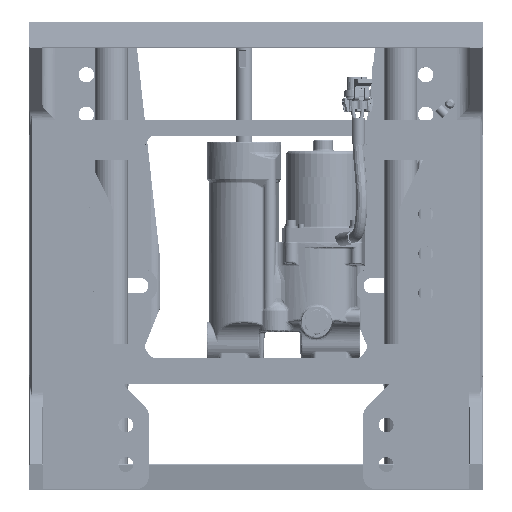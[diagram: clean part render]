
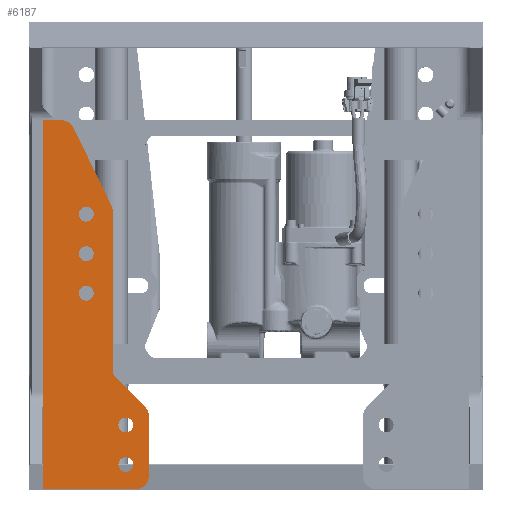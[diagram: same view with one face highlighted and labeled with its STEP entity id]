
A CAD part, top view. The second image highlights one B-rep face of the part: STEP entity #6187.
In plain terms, the highlighted planar face has unit normal (0, 0, 1) as drawn and (0, 0, -1) by its records, which use the part's own axes.
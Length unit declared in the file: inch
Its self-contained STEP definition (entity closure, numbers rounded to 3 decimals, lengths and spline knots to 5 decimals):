
#5104=DIRECTION('',(-1.,0.,0.));
#5105=VECTOR('',#5104,0.68768);
#5106=CARTESIAN_POINT('',(0.,14.,0.));
#5107=LINE('',#5106,#5105);
#5120=CARTESIAN_POINT('',(-1.625,10.44,0.));
#5121=DIRECTION('',(0.,0.,1.));
#5122=DIRECTION('',(1.,0.,0.));
#5123=AXIS2_PLACEMENT_3D('',#5120,#5121,#5122);
#5125=CARTESIAN_POINT('',(-1.625,10.44,0.));
#5126=DIRECTION('',(0.,0.,1.));
#5127=DIRECTION('',(-1.,0.,0.));
#5128=AXIS2_PLACEMENT_3D('',#5125,#5126,#5127);
#5130=CARTESIAN_POINT('',(-1.625,8.94,0.));
#5131=DIRECTION('',(0.,0.,1.));
#5132=DIRECTION('',(1.,0.,0.));
#5133=AXIS2_PLACEMENT_3D('',#5130,#5131,#5132);
#5135=CARTESIAN_POINT('',(-1.625,8.94,0.));
#5136=DIRECTION('',(0.,0.,1.));
#5137=DIRECTION('',(-1.,0.,0.));
#5138=AXIS2_PLACEMENT_3D('',#5135,#5136,#5137);
#5140=CARTESIAN_POINT('',(-3.125,0.94,0.));
#5141=DIRECTION('',(0.,0.,1.));
#5142=DIRECTION('',(1.,0.,0.));
#5143=AXIS2_PLACEMENT_3D('',#5140,#5141,#5142);
#5145=CARTESIAN_POINT('',(-3.125,0.94,0.));
#5146=DIRECTION('',(0.,0.,1.));
#5147=DIRECTION('',(-1.,0.,0.));
#5148=AXIS2_PLACEMENT_3D('',#5145,#5146,#5147);
#5150=CARTESIAN_POINT('',(-3.125,2.44,0.));
#5151=DIRECTION('',(0.,0.,1.));
#5152=DIRECTION('',(-1.,0.,0.));
#5153=AXIS2_PLACEMENT_3D('',#5150,#5151,#5152);
#5155=CARTESIAN_POINT('',(-3.125,2.44,0.));
#5156=DIRECTION('',(0.,0.,1.));
#5157=DIRECTION('',(1.,0.,0.));
#5158=AXIS2_PLACEMENT_3D('',#5155,#5156,#5157);
#5160=CARTESIAN_POINT('',(-1.625,7.44,0.));
#5161=DIRECTION('',(0.,0.,1.));
#5162=DIRECTION('',(1.,0.,0.));
#5163=AXIS2_PLACEMENT_3D('',#5160,#5161,#5162);
#5165=CARTESIAN_POINT('',(-1.625,7.44,0.));
#5166=DIRECTION('',(0.,0.,1.));
#5167=DIRECTION('',(-1.,0.,0.));
#5168=AXIS2_PLACEMENT_3D('',#5165,#5166,#5167);
#5170=CARTESIAN_POINT('',(-3.5,2.77211,0.));
#5171=DIRECTION('',(0.,0.,1.));
#5172=DIRECTION('',(-0.707,0.707,0.));
#5173=AXIS2_PLACEMENT_3D('',#5170,#5171,#5172);
#5175=CARTESIAN_POINT('',(-3.5,0.5,0.));
#5176=DIRECTION('',(0.,0.,1.));
#5177=DIRECTION('',(-1.,0.,0.));
#5178=AXIS2_PLACEMENT_3D('',#5175,#5176,#5177);
#5180=DIRECTION('',(0.,-1.,0.));
#5181=VECTOR('',#5180,14.);
#5182=CARTESIAN_POINT('',(0.,14.,0.));
#5183=LINE('',#5182,#5181);
#5184=CARTESIAN_POINT('',(-0.68768,13.5,0.));
#5185=DIRECTION('',(0.,0.,1.));
#5186=DIRECTION('',(0.,1.,0.));
#5187=AXIS2_PLACEMENT_3D('',#5184,#5185,#5186);
#5189=DIRECTION('',(0.439,0.899,0.));
#5190=VECTOR('',#5189,3.27656);
#5191=CARTESIAN_POINT('',(-2.57432,10.77485,0.));
#5192=LINE('',#5191,#5190);
#5193=CARTESIAN_POINT('',(-2.125,10.55552,0.));
#5194=DIRECTION('',(0.,0.,1.));
#5195=DIRECTION('',(-0.899,0.439,0.));
#5196=AXIS2_PLACEMENT_3D('',#5193,#5194,#5195);
#5198=DIRECTION('',(0.,1.,0.));
#5199=VECTOR('',#5198,5.9942);
#5200=CARTESIAN_POINT('',(-2.625,4.56132,0.));
#5201=LINE('',#5200,#5199);
#5202=DIRECTION('',(0.707,0.707,0.));
#5203=VECTOR('',#5202,1.53033);
#5204=CARTESIAN_POINT('',(-3.85355,3.12566,0.));
#5205=LINE('',#5204,#5203);
#5666=DIRECTION('',(-1.,0.,0.));
#5667=VECTOR('',#5666,3.5);
#5668=CARTESIAN_POINT('',(0.,0.,0.));
#5669=LINE('',#5668,#5667);
#5707=DIRECTION('',(0.,-1.,0.));
#5708=VECTOR('',#5707,2.27211);
#5709=CARTESIAN_POINT('',(-4.,2.77211,0.));
#5710=LINE('',#5709,#5708);
#5724=CARTESIAN_POINT('',(-3.125,4.56132,0.));
#5725=DIRECTION('',(0.,0.,-1.));
#5726=DIRECTION('',(1.,0.,0.));
#5727=AXIS2_PLACEMENT_3D('',#5724,#5725,#5726);
#5899=CARTESIAN_POINT('',(-1.3435,10.44,0.));
#5901=VERTEX_POINT('',#5899);
#5903=CARTESIAN_POINT('',(-1.9065,10.44,0.));
#5905=VERTEX_POINT('',#5903);
#5907=CARTESIAN_POINT('',(-1.3435,8.94,0.));
#5909=VERTEX_POINT('',#5907);
#5911=CARTESIAN_POINT('',(-1.9065,8.94,0.));
#5913=VERTEX_POINT('',#5911);
#5915=CARTESIAN_POINT('',(-2.8435,0.94,0.));
#5917=VERTEX_POINT('',#5915);
#5919=CARTESIAN_POINT('',(-3.4065,0.94,0.));
#5921=VERTEX_POINT('',#5919);
#5948=CARTESIAN_POINT('',(0.,14.,0.));
#5950=VERTEX_POINT('',#5948);
#5951=CARTESIAN_POINT('',(0.,0.,0.));
#5952=VERTEX_POINT('',#5951);
#5953=CARTESIAN_POINT('',(-3.4065,2.44,0.));
#5954=CARTESIAN_POINT('',(-2.8435,2.44,0.));
#5955=VERTEX_POINT('',#5953);
#5956=VERTEX_POINT('',#5954);
#5987=CARTESIAN_POINT('',(-4.,0.5,0.));
#5988=VERTEX_POINT('',#5987);
#5989=CARTESIAN_POINT('',(-3.5,0.,0.));
#5990=VERTEX_POINT('',#5989);
#6009=CARTESIAN_POINT('',(-1.3435,7.44,0.));
#6010=CARTESIAN_POINT('',(-1.9065,7.44,0.));
#6011=VERTEX_POINT('',#6009);
#6012=VERTEX_POINT('',#6010);
#6017=CARTESIAN_POINT('',(-2.625,4.56132,0.));
#6019=VERTEX_POINT('',#6017);
#6021=CARTESIAN_POINT('',(-2.77145,4.20777,0.));
#6023=VERTEX_POINT('',#6021);
#6027=CARTESIAN_POINT('',(-0.68768,14.,0.));
#6028=CARTESIAN_POINT('',(-1.137,13.71933,0.));
#6029=VERTEX_POINT('',#6027);
#6030=VERTEX_POINT('',#6028);
#6036=CARTESIAN_POINT('',(-2.57432,10.77485,0.));
#6037=CARTESIAN_POINT('',(-2.625,10.55552,0.));
#6038=VERTEX_POINT('',#6036);
#6039=VERTEX_POINT('',#6037);
#6046=CARTESIAN_POINT('',(-3.85355,3.12566,0.));
#6047=CARTESIAN_POINT('',(-4.,2.77211,0.));
#6048=VERTEX_POINT('',#6046);
#6049=VERTEX_POINT('',#6047);
#6128=CARTESIAN_POINT('',(0.,14.,0.));
#6129=DIRECTION('',(0.,0.,1.));
#6130=DIRECTION('',(-1.,0.,0.));
#6131=AXIS2_PLACEMENT_3D('',#6128,#6129,#6130);
#6132=PLANE('',#6131);
#6134=ORIENTED_EDGE('',*,*,#6133,.T.);
#6136=ORIENTED_EDGE('',*,*,#6135,.T.);
#6138=ORIENTED_EDGE('',*,*,#6137,.T.);
#6140=ORIENTED_EDGE('',*,*,#6139,.F.);
#6142=ORIENTED_EDGE('',*,*,#6141,.F.);
#6143=ORIENTED_EDGE('',*,*,#6098,.T.);
#6144=ORIENTED_EDGE('',*,*,#6116,.T.);
#6146=ORIENTED_EDGE('',*,*,#6145,.F.);
#6148=ORIENTED_EDGE('',*,*,#6147,.T.);
#6150=ORIENTED_EDGE('',*,*,#6149,.F.);
#6152=ORIENTED_EDGE('',*,*,#6151,.T.);
#6154=ORIENTED_EDGE('',*,*,#6153,.F.);
#6155=EDGE_LOOP('',(#6134,#6136,#6138,#6140,#6142,#6143,#6144,#6146,#6148,#6150,
#6152,#6154));
#6156=FACE_OUTER_BOUND('',#6155,.F.);
#6158=ORIENTED_EDGE('',*,*,#6157,.F.);
#6160=ORIENTED_EDGE('',*,*,#6159,.F.);
#6161=EDGE_LOOP('',(#6158,#6160));
#6162=FACE_BOUND('',#6161,.F.);
#6164=ORIENTED_EDGE('',*,*,#6163,.F.);
#6166=ORIENTED_EDGE('',*,*,#6165,.F.);
#6167=EDGE_LOOP('',(#6164,#6166));
#6168=FACE_BOUND('',#6167,.F.);
#6170=ORIENTED_EDGE('',*,*,#6169,.F.);
#6172=ORIENTED_EDGE('',*,*,#6171,.F.);
#6173=EDGE_LOOP('',(#6170,#6172));
#6174=FACE_BOUND('',#6173,.F.);
#6176=ORIENTED_EDGE('',*,*,#6175,.F.);
#6178=ORIENTED_EDGE('',*,*,#6177,.F.);
#6179=EDGE_LOOP('',(#6176,#6178));
#6180=FACE_BOUND('',#6179,.F.);
#6182=ORIENTED_EDGE('',*,*,#6181,.F.);
#6184=ORIENTED_EDGE('',*,*,#6183,.F.);
#6185=EDGE_LOOP('',(#6182,#6184));
#6186=FACE_BOUND('',#6185,.F.);
#6187=ADVANCED_FACE('',(#6156,#6162,#6168,#6174,#6180,#6186),#6132,.F.);
#5124=CIRCLE('',#5123,0.2815);
#5129=CIRCLE('',#5128,0.2815);
#5134=CIRCLE('',#5133,0.2815);
#5139=CIRCLE('',#5138,0.2815);
#5144=CIRCLE('',#5143,0.2815);
#5149=CIRCLE('',#5148,0.2815);
#5154=CIRCLE('',#5153,0.2815);
#5159=CIRCLE('',#5158,0.2815);
#5164=CIRCLE('',#5163,0.2815);
#5169=CIRCLE('',#5168,0.2815);
#5174=CIRCLE('',#5173,0.5);
#5179=CIRCLE('',#5178,0.5);
#5188=CIRCLE('',#5187,0.5);
#5197=CIRCLE('',#5196,0.5);
#5728=CIRCLE('',#5727,0.5);
#6098=EDGE_CURVE('',#5950,#6029,#5107,.T.);
#6116=EDGE_CURVE('',#6029,#6030,#5188,.T.);
#6133=EDGE_CURVE('',#6048,#6049,#5174,.T.);
#6135=EDGE_CURVE('',#6049,#5988,#5710,.T.);
#6137=EDGE_CURVE('',#5988,#5990,#5179,.T.);
#6139=EDGE_CURVE('',#5952,#5990,#5669,.T.);
#6141=EDGE_CURVE('',#5950,#5952,#5183,.T.);
#6145=EDGE_CURVE('',#6038,#6030,#5192,.T.);
#6147=EDGE_CURVE('',#6038,#6039,#5197,.T.);
#6149=EDGE_CURVE('',#6019,#6039,#5201,.T.);
#6151=EDGE_CURVE('',#6019,#6023,#5728,.T.);
#6153=EDGE_CURVE('',#6048,#6023,#5205,.T.);
#6157=EDGE_CURVE('',#5909,#5913,#5134,.T.);
#6159=EDGE_CURVE('',#5913,#5909,#5139,.T.);
#6163=EDGE_CURVE('',#5917,#5921,#5144,.T.);
#6165=EDGE_CURVE('',#5921,#5917,#5149,.T.);
#6169=EDGE_CURVE('',#5955,#5956,#5154,.T.);
#6171=EDGE_CURVE('',#5956,#5955,#5159,.T.);
#6175=EDGE_CURVE('',#6011,#6012,#5164,.T.);
#6177=EDGE_CURVE('',#6012,#6011,#5169,.T.);
#6181=EDGE_CURVE('',#5901,#5905,#5124,.T.);
#6183=EDGE_CURVE('',#5905,#5901,#5129,.T.);
